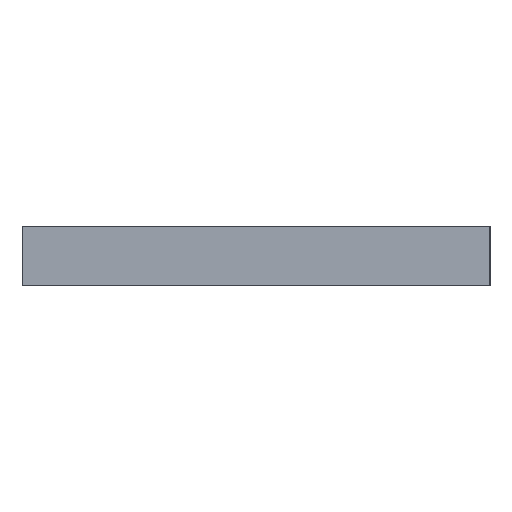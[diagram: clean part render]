
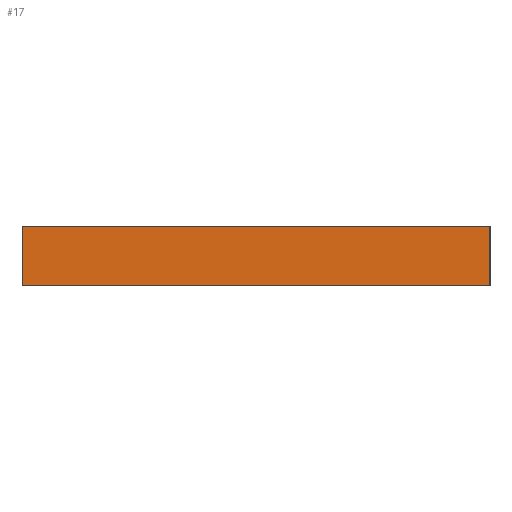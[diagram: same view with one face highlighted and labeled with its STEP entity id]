
A CAD part, left-side view. The second image highlights one B-rep face of the part: STEP entity #17.
In plain terms, the highlighted planar face has unit normal (-1, 0, 0).
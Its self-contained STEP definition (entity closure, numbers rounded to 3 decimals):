
#17 = ADVANCED_FACE('',(#18),#32,.F.);
#18 = FACE_BOUND('',#19,.T.);
#19 = EDGE_LOOP('',(#20,#55,#83,#111));
#20 = ORIENTED_EDGE('',*,*,#21,.F.);
#21 = EDGE_CURVE('',#22,#24,#26,.T.);
#22 = VERTEX_POINT('',#23);
#23 = CARTESIAN_POINT('',(0.2,-0.2,0.));
#24 = VERTEX_POINT('',#25);
#25 = CARTESIAN_POINT('',(0.2,-0.2,14.));
#26 = SURFACE_CURVE('',#27,(#31,#43),.PCURVE_S1.);
#27 = LINE('',#28,#29);
#28 = CARTESIAN_POINT('',(0.2,-0.2,0.));
#29 = VECTOR('',#30,1.);
#30 = DIRECTION('',(-0.,-0.,1.));
#31 = PCURVE('',#32,#37);
#32 = PLANE('',#33);
#33 = AXIS2_PLACEMENT_3D('',#34,#35,#36);
#34 = CARTESIAN_POINT('',(0.2,-0.2,0.));
#35 = DIRECTION('',(1.,-0.,-0.));
#36 = DIRECTION('',(0.,0.,-1.));
#37 = DEFINITIONAL_REPRESENTATION('',(#38),#42);
#38 = LINE('',#39,#40);
#39 = CARTESIAN_POINT('',(-0.,0.));
#40 = VECTOR('',#41,1.);
#41 = DIRECTION('',(-1.,0.));
#42 = ( GEOMETRIC_REPRESENTATION_CONTEXT(2) 
PARAMETRIC_REPRESENTATION_CONTEXT() REPRESENTATION_CONTEXT('2D SPACE',''
  ) );
#43 = PCURVE('',#44,#49);
#44 = PLANE('',#45);
#45 = AXIS2_PLACEMENT_3D('',#46,#47,#48);
#46 = CARTESIAN_POINT('',(0.2,-0.2,0.));
#47 = DIRECTION('',(-0.,-1.,-0.));
#48 = DIRECTION('',(0.,0.,-1.));
#49 = DEFINITIONAL_REPRESENTATION('',(#50),#54);
#50 = LINE('',#51,#52);
#51 = CARTESIAN_POINT('',(-0.,0.));
#52 = VECTOR('',#53,1.);
#53 = DIRECTION('',(-1.,0.));
#54 = ( GEOMETRIC_REPRESENTATION_CONTEXT(2) 
PARAMETRIC_REPRESENTATION_CONTEXT() REPRESENTATION_CONTEXT('2D SPACE',''
  ) );
#55 = ORIENTED_EDGE('',*,*,#56,.T.);
#56 = EDGE_CURVE('',#22,#57,#59,.T.);
#57 = VERTEX_POINT('',#58);
#58 = CARTESIAN_POINT('',(0.2,-110.,0.));
#59 = SURFACE_CURVE('',#60,(#64,#71),.PCURVE_S1.);
#60 = LINE('',#61,#62);
#61 = CARTESIAN_POINT('',(0.2,-0.2,0.));
#62 = VECTOR('',#63,1.);
#63 = DIRECTION('',(-0.,-1.,-0.));
#64 = PCURVE('',#32,#65);
#65 = DEFINITIONAL_REPRESENTATION('',(#66),#70);
#66 = LINE('',#67,#68);
#67 = CARTESIAN_POINT('',(-0.,0.));
#68 = VECTOR('',#69,1.);
#69 = DIRECTION('',(-0.,-1.));
#70 = ( GEOMETRIC_REPRESENTATION_CONTEXT(2) 
PARAMETRIC_REPRESENTATION_CONTEXT() REPRESENTATION_CONTEXT('2D SPACE',''
  ) );
#71 = PCURVE('',#72,#77);
#72 = PLANE('',#73);
#73 = AXIS2_PLACEMENT_3D('',#74,#75,#76);
#74 = CARTESIAN_POINT('',(0.2,-0.2,0.));
#75 = DIRECTION('',(-0.,-0.,1.));
#76 = DIRECTION('',(-1.,0.,0.));
#77 = DEFINITIONAL_REPRESENTATION('',(#78),#82);
#78 = LINE('',#79,#80);
#79 = CARTESIAN_POINT('',(-0.,-0.));
#80 = VECTOR('',#81,1.);
#81 = DIRECTION('',(-0.,1.));
#82 = ( GEOMETRIC_REPRESENTATION_CONTEXT(2) 
PARAMETRIC_REPRESENTATION_CONTEXT() REPRESENTATION_CONTEXT('2D SPACE',''
  ) );
#83 = ORIENTED_EDGE('',*,*,#84,.F.);
#84 = EDGE_CURVE('',#85,#57,#87,.T.);
#85 = VERTEX_POINT('',#86);
#86 = CARTESIAN_POINT('',(0.2,-110.,14.));
#87 = SURFACE_CURVE('',#88,(#92,#99),.PCURVE_S1.);
#88 = LINE('',#89,#90);
#89 = CARTESIAN_POINT('',(0.2,-110.,14.));
#90 = VECTOR('',#91,1.);
#91 = DIRECTION('',(-0.,-0.,-1.));
#92 = PCURVE('',#32,#93);
#93 = DEFINITIONAL_REPRESENTATION('',(#94),#98);
#94 = LINE('',#95,#96);
#95 = CARTESIAN_POINT('',(-14.,-109.8));
#96 = VECTOR('',#97,1.);
#97 = DIRECTION('',(1.,-0.));
#98 = ( GEOMETRIC_REPRESENTATION_CONTEXT(2) 
PARAMETRIC_REPRESENTATION_CONTEXT() REPRESENTATION_CONTEXT('2D SPACE',''
  ) );
#99 = PCURVE('',#100,#105);
#100 = PLANE('',#101);
#101 = AXIS2_PLACEMENT_3D('',#102,#103,#104);
#102 = CARTESIAN_POINT('',(0.2,-110.,0.));
#103 = DIRECTION('',(-0.,-1.,-0.));
#104 = DIRECTION('',(0.,0.,-1.));
#105 = DEFINITIONAL_REPRESENTATION('',(#106),#110);
#106 = LINE('',#107,#108);
#107 = CARTESIAN_POINT('',(-14.,0.));
#108 = VECTOR('',#109,1.);
#109 = DIRECTION('',(1.,-0.));
#110 = ( GEOMETRIC_REPRESENTATION_CONTEXT(2) 
PARAMETRIC_REPRESENTATION_CONTEXT() REPRESENTATION_CONTEXT('2D SPACE',''
  ) );
#111 = ORIENTED_EDGE('',*,*,#112,.F.);
#112 = EDGE_CURVE('',#24,#85,#113,.T.);
#113 = SURFACE_CURVE('',#114,(#118,#125),.PCURVE_S1.);
#114 = LINE('',#115,#116);
#115 = CARTESIAN_POINT('',(0.2,-0.2,14.));
#116 = VECTOR('',#117,1.);
#117 = DIRECTION('',(-0.,-1.,-0.));
#118 = PCURVE('',#32,#119);
#119 = DEFINITIONAL_REPRESENTATION('',(#120),#124);
#120 = LINE('',#121,#122);
#121 = CARTESIAN_POINT('',(-14.,0.));
#122 = VECTOR('',#123,1.);
#123 = DIRECTION('',(-0.,-1.));
#124 = ( GEOMETRIC_REPRESENTATION_CONTEXT(2) 
PARAMETRIC_REPRESENTATION_CONTEXT() REPRESENTATION_CONTEXT('2D SPACE',''
  ) );
#125 = PCURVE('',#126,#131);
#126 = PLANE('',#127);
#127 = AXIS2_PLACEMENT_3D('',#128,#129,#130);
#128 = CARTESIAN_POINT('',(0.2,-0.2,14.));
#129 = DIRECTION('',(-0.,-0.,1.));
#130 = DIRECTION('',(-1.,0.,0.));
#131 = DEFINITIONAL_REPRESENTATION('',(#132),#136);
#132 = LINE('',#133,#134);
#133 = CARTESIAN_POINT('',(-0.,-0.));
#134 = VECTOR('',#135,1.);
#135 = DIRECTION('',(-0.,1.));
#136 = ( GEOMETRIC_REPRESENTATION_CONTEXT(2) 
PARAMETRIC_REPRESENTATION_CONTEXT() REPRESENTATION_CONTEXT('2D SPACE',''
  ) );
